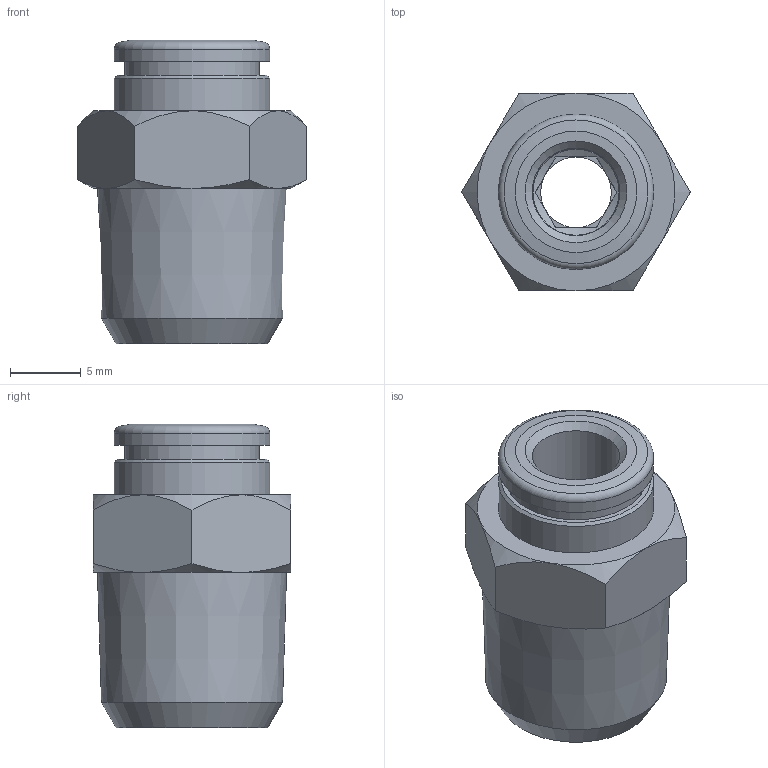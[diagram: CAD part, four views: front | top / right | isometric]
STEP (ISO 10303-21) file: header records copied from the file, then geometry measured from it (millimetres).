
FILE_DESCRIPTION(/* description */ (''),/* implementation_level */ '2;1');
FILE_NAME(/* name */ '200155-ES_STX01K_6_R14_03.05.16',/* time_stamp */ '2016-05-03T10:23:44+02:00',/* author */ (''),/* organization */ (''),/* preprocessor_version */ 'ST-DEVELOPER v14',/* originating_system */ 'HiCAD 2013 1802.4 Build 509',/* authorisation */ '');
FILE_SCHEMA (('AUTOMOTIVE_DESIGN { 1 0 10303 214 1 1 1 1 }'));
Length unit declared in the file: millimetre
Products named in the file (3): Root; R200155-ES-N; DR6_NEU
Assembly tree (2 placements, depth 2):
  Root
    R200155-ES-N
    DR6_NEU
Bounding box: 16.17 x 14 x 21.5 mm (x, y, z)
Volume: 2029 mm3; surface area: 2014.6 mm2
Topology: 2 solids, 2 shells, 59 faces, 123 edges, 73 vertices
Faces by surface type: plane 26, cone 23, cylinder 9, torus 1
Full cylindrical faces by diameter (mm): 5 x1, 6.1 x1, 6.2 x1, 8.3 x1, 9 x1, 9.5 x1, 9.6 x1, 11 x2
Entity records: 2499 total; most frequent: DIRECTION 300, CARTESIAN_POINT 232, PRESENTATION_STYLE_ASSIGNMENT 200, COLOUR_RGB 199, DRAUGHTING_PRE_DEFINED_CURVE_FONT 198, CURVE_STYLE 198, OVER_RIDING_STYLED_ITEM 198, ORIENTED_EDGE 198
